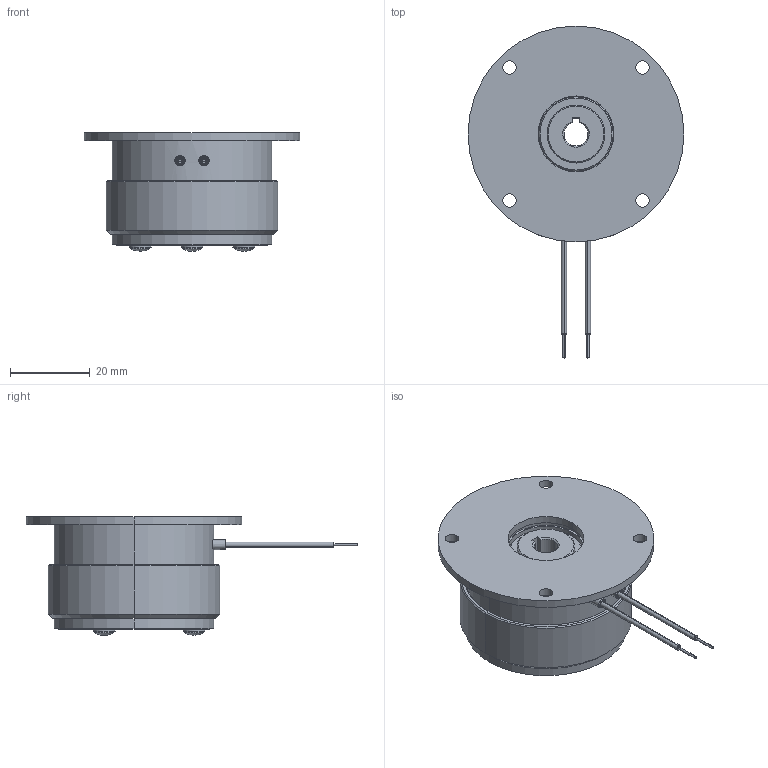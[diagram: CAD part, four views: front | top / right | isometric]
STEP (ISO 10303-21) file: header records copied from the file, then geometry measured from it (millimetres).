
FILE_DESCRIPTION (( 'STEP AP214' ), '1' );
FILE_NAME ('dr_bk_0303-110_mu.STEP', '2021-12-01T08:41:15', ( '' ), ( '' ), 'SwSTEP 2.0', 'SolidWorks 2019', '' );
FILE_SCHEMA (( 'AUTOMOTIVE_DESIGN' ));
Length unit declared in the file: millimetre
Products named in the file (8): dr_bk_0303-110_mu; 10068743_000_Einbaul„nge 1,7 mm; 10068746_000; 10069108_000; 10068745_000_eingebaut; 10069127_000; 10068744_000; 10068742_000
Assembly tree (11 placements, depth 3):
  dr_bk_0303-110_mu
    10069108_000
    10069127_000
    10068744_000
      10068746_000
      10068742_000
      10068745_000_eingebaut  x3
      10068743_000_Einbaul„nge 1,7 mm  x3
Bounding box: 54 x 83 x 29.65 mm (x, y, z)
Volume: 36033.1 mm3; surface area: 19734.7 mm2
Topology: 12 solids, 12 shells, 225 faces, 498 edges, 306 vertices
Faces by surface type: cylinder 111, cone 54, plane 34, torus 20, sphere 6
Entity records: 6500 total; most frequent: DIRECTION 974, CARTESIAN_POINT 960, ORIENTED_EDGE 760, AXIS2_PLACEMENT_3D 420, EDGE_CURVE 380, VERTEX_POINT 238, CIRCLE 234, EDGE_LOOP 226
